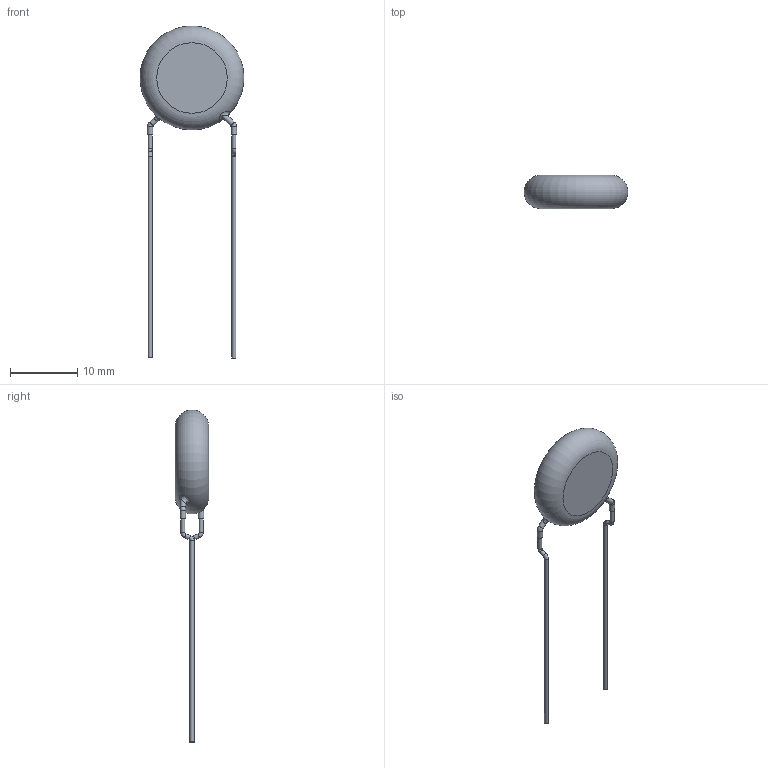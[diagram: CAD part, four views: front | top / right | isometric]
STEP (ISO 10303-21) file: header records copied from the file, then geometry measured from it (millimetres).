
FILE_DESCRIPTION((''),'2;1');
FILE_NAME('I:\Marketing\M6t1\3D-Models\Zchng-Werk-3\Upload for homepage\BCC\VY1-Compact\Y5U-12,5mm\VY1472M61Y5UC63VX\VY1472M61Y5UC63VX.stp','2015-09-01T11:57:56',('sherden'),(''),'Autodesk Inventor 2013','Autodesk Inventor 2013','');
FILE_SCHEMA(('CONFIG_CONTROL_DESIGN'));
Length unit declared in the file: millimetre
Products named in the file (1): VY1472M61Y5UC63VX
Bounding box: 15.5 x 5 x 49.5 mm (x, y, z)
Volume: 845.4 mm3; surface area: 655.8 mm2
Topology: 1 solids, 1 shells, 25 faces, 45 edges, 26 vertices
Faces by surface type: cylinder 10, torus 7, plane 6, bspline 2
Full cylindrical faces by diameter (mm): 0.6 x6, 0.8 x4
Entity records: 811 total; most frequent: CARTESIAN_POINT 334, DIRECTION 92, ORIENTED_EDGE 52, AXIS2_PLACEMENT_3D 46, EDGE_LOOP 46, EDGE_CURVE 26, STYLED_ITEM 26, FACE_OUTER_BOUND 25
